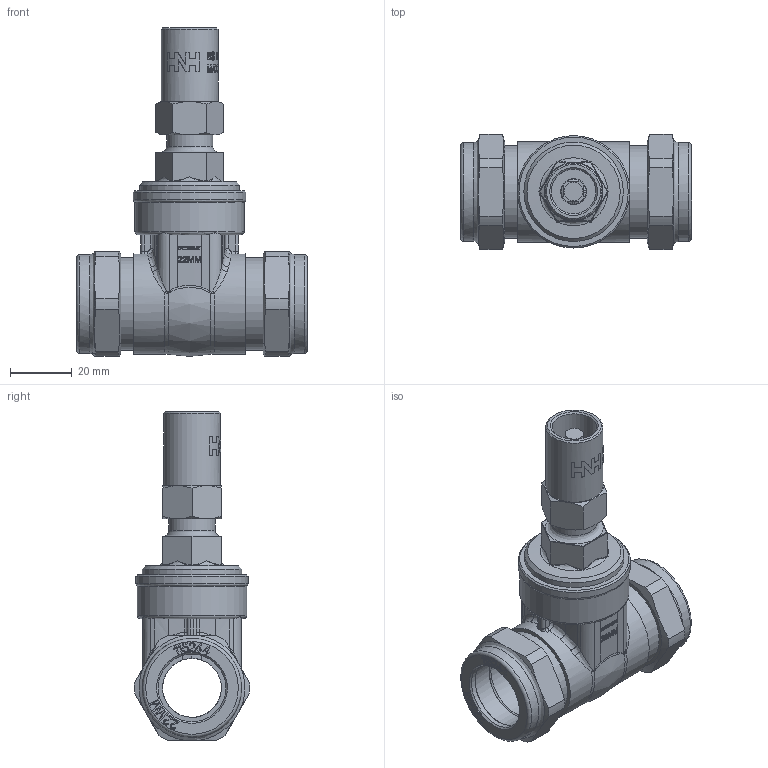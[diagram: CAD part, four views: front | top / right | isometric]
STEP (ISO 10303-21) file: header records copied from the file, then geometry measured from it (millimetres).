
FILE_DESCRIPTION((''),'2;1');
FILE_NAME('P:\Fastrack\53972_CRANE 3D\Gate Valves\Work Space\Lockshield\30CLS_22mm\30CLS_22mm.stp','2011-03-09T11:30:37',('btaylor'),(''),'Autodesk Inventor 2008','Autodesk Inventor 2008','');
FILE_SCHEMA(('AUTOMOTIVE_DESIGN { 1 0 10303 214 1 1 1 1 }'));
Length unit declared in the file: millimetre
Products named in the file (1): 30CLS_22mm
Bounding box: 75.13 x 37.46 x 106.7 mm (x, y, z)
Volume: 66885.8 mm3; surface area: 27090.9 mm2
Topology: 1 solids, 3 shells, 1178 faces, 3147 edges, 2061 vertices
Faces by surface type: plane 544, bspline 433, cylinder 140, cone 51, torus 10
Full cylindrical faces by diameter (mm): 6 x1, 7.9 x1, 8.5 x1, 13.37 x1, 14.5 x1, 15 x1, 18.5 x1, 19.1 x1, 22 x2, 22.223 x1, 22.225 x1, 22.25 x2, 28.7 x2, 30 x2, 32.1 x2, 32.3 x1, 32.6 x2, 35.5 x1, 36.5 x1
Entity records: 118273 total; most frequent: CARTESIAN_POINT 91550, ORIENTED_EDGE 6092, DIRECTION 3756, EDGE_CURVE 3046, VERTEX_POINT 2029, VECTOR 1400, LINE 1400, EDGE_LOOP 1339
